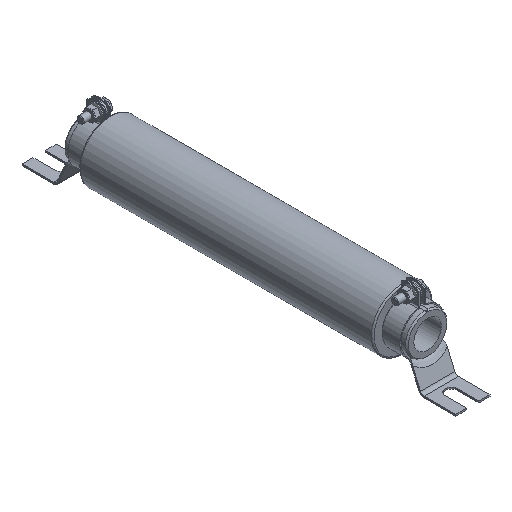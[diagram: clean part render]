
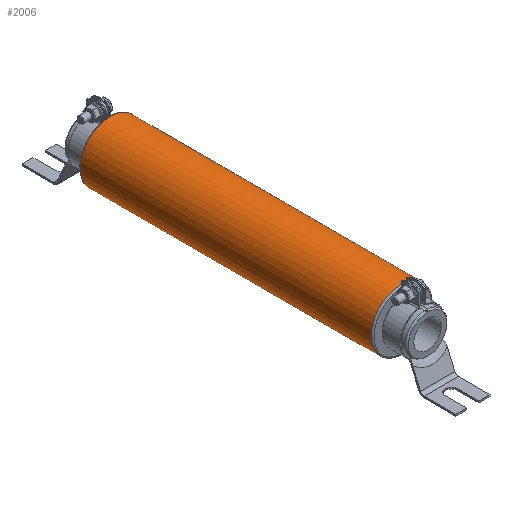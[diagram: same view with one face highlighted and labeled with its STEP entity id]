
A CAD part, isometric view. The second image highlights one B-rep face of the part: STEP entity #2006.
In plain terms, the highlighted cylindrical face has radius 22 mm (diameter 44 mm), a full revolution.
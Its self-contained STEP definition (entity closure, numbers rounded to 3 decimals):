
#239=CIRCLE('',#2546,22.);
#240=CIRCLE('',#2547,22.);
#850=ORIENTED_EDGE('',*,*,#1209,.T.);
#851=ORIENTED_EDGE('',*,*,#1210,.T.);
#1209=EDGE_CURVE('',#1425,#1425,#239,.T.);
#1210=EDGE_CURVE('',#1426,#1426,#240,.T.);
#1425=VERTEX_POINT('',#3837);
#1426=VERTEX_POINT('',#3839);
#1649=EDGE_LOOP('',(#850));
#1650=EDGE_LOOP('',(#851));
#1823=FACE_BOUND('',#1649,.T.);
#1824=FACE_BOUND('',#1650,.T.);
#1925=CYLINDRICAL_SURFACE('',#2545,22.);
#2006=ADVANCED_FACE('',(#1823,#1824),#1925,.T.);
#2545=AXIS2_PLACEMENT_3D('',#3835,#3013,#3014);
#2546=AXIS2_PLACEMENT_3D('',#3836,#3015,#3016);
#2547=AXIS2_PLACEMENT_3D('',#3838,#3017,#3018);
#3013=DIRECTION('',(0.,-1.,0.));
#3014=DIRECTION('',(0.,0.,-1.));
#3015=DIRECTION('',(0.,-1.,0.));
#3016=DIRECTION('',(0.,0.,-1.));
#3017=DIRECTION('',(0.,1.,0.));
#3018=DIRECTION('',(0.,0.,1.));
#3835=CARTESIAN_POINT('',(0.,-60.,0.));
#3836=CARTESIAN_POINT('',(0.,106.,0.));
#3837=CARTESIAN_POINT('',(0.,106.,-22.));
#3838=CARTESIAN_POINT('',(0.,-106.,0.));
#3839=CARTESIAN_POINT('',(0.,-106.,22.));
